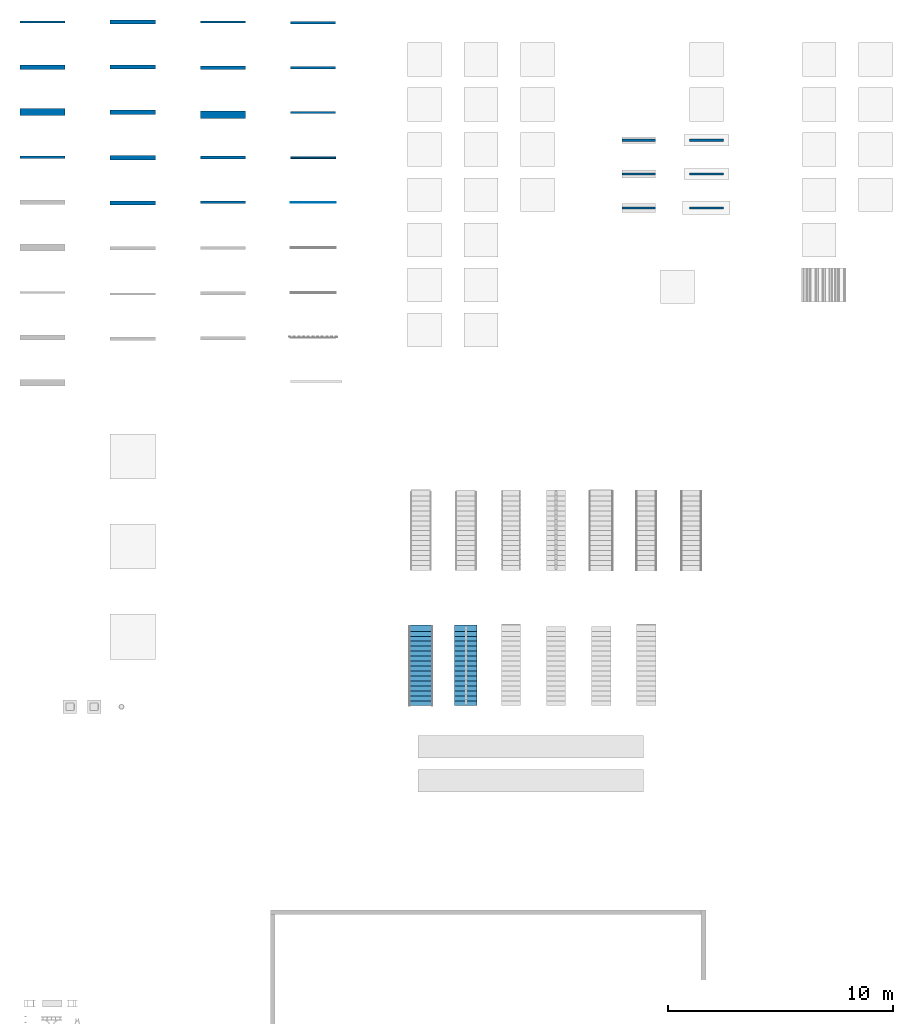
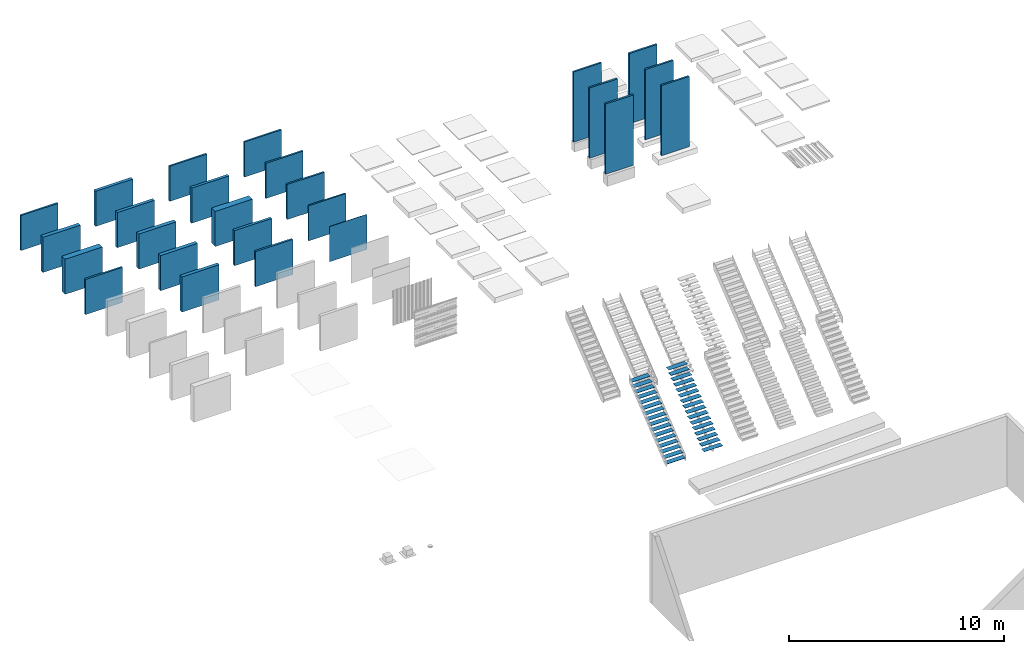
# One storey, part 5 of 13: 25 walls, 2 stair flights, 2 elements without a shape of their own.
"""IFC2X3 building model written with IfcOpenShell, lengths in millimetres."""

from ifc_helpers import new_model, entity, si_unit, converted_unit, derived_unit, direction, frame, frame_2d, origin, origin_2d_with_axis, place, context, subcontext, project, spatial, rectangle, extrude, material, layer, layer_set, layer_usage, type_object, element, aggregate, save


model = new_model("IFC2X3")

# Units and contexts
model_context = context("Model", 3, precision=0.01, world=origin(), true_north=direction((6.12303176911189e-17, 1.0)))
body_context = subcontext(model_context, "Body", "Model", "MODEL_VIEW")
ifc_project = project(units=[si_unit("LENGTHUNIT", "METRE", prefix="MILLI"), si_unit("AREAUNIT", "SQUARE_METRE"), si_unit("VOLUMEUNIT", "CUBIC_METRE"), converted_unit("PLANEANGLEUNIT", "DEGREE", entity("IfcRatioMeasure", 0.0174532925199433), si_unit("PLANEANGLEUNIT", "RADIAN"), dimensions=[0, 0, 0, 0, 0, 0, 0]), si_unit("MASSUNIT", "GRAM", prefix="KILO"), si_unit("TIMEUNIT", "SECOND"), si_unit("FREQUENCYUNIT", "HERTZ"), si_unit("THERMODYNAMICTEMPERATUREUNIT", "KELVIN"), derived_unit("THERMALTRANSMITTANCEUNIT", [(si_unit("MASSUNIT", "GRAM", prefix="KILO"), 1), (si_unit("THERMODYNAMICTEMPERATUREUNIT", "KELVIN"), -1), (si_unit("TIMEUNIT", "SECOND"), -3)]), derived_unit("VOLUMETRICFLOWRATEUNIT", [(si_unit("LENGTHUNIT", "METRE"), 3), (si_unit("TIMEUNIT", "SECOND"), -1)]), si_unit("ELECTRICCURRENTUNIT", "AMPERE"), si_unit("ELECTRICVOLTAGEUNIT", "VOLT"), si_unit("POWERUNIT", "WATT")], contexts=[model_context])

# Site, building, storey
site_placement = place(None, origin())
site = spatial("IfcSite", under=ifc_project, at=site_placement, Name="Surface", CompositionType="ELEMENT")
building_placement = place(site_placement, origin())
building = spatial("IfcBuilding", under=site, at=building_placement, CompositionType="ELEMENT")
storey_placement = place(building_placement, origin())
storey = spatial("IfcBuildingStorey", under=building, at=storey_placement, Name="00_begane grond", CompositionType="ELEMENT", Elevation=0.0)

# Walls
ifc_material_1 = material(Name="Default")
ifc_layer_1 = layer(ifc_material_1, 100.0)
ifc_layer_set_1 = layer_set([ifc_layer_1], Name="Basic Wall:20_WA_wand_generiek_100")
ifc_layer_usage_1 = layer_usage(ifc_layer_set_1, "AXIS2", "NEGATIVE", 50.0)
wall_type_1 = type_object("IfcWallType", Name="Basic Wall:20_WA_wand_generiek_100", PredefinedType="STANDARD", material=ifc_layer_set_1)
wall_1_placement = place(storey_placement, frame((0.0, -1000.0, 0.0)))
element("IfcWallStandardCase", 1, at=wall_1_placement, inside=storey, type_object=wall_type_1, material=ifc_layer_usage_1, Name="Basic Wall:20_WA_wand_generiek_100", ObjectType="Basic Wall:20_WA_wand_generiek_100:1384", context=body_context, shape_type="SweptSolid", body=[
    extrude(rectangle(XDim=2000.0, YDim=100.0, at=frame_2d((1000.0, -7.105427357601e-15), x_axis=(-1.0, 0.0))), origin(), (0.0, 0.0, 1.0), 2000.0),
])
ifc_layer_usage_2 = layer_usage(ifc_layer_set_1, "AXIS2", "NEGATIVE", 50.0)
wall_2_placement = place(storey_placement, frame((29689.8687148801, -6248.9380073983, 0.0)))
element("IfcWallStandardCase", 2, at=wall_2_placement, inside=storey, type_object=wall_type_1, material=ifc_layer_usage_2, Name="Basic Wall:20_WA_wand_generiek_100", ObjectType="Basic Wall:20_WA_wand_generiek_100:1384", context=body_context, shape_type="SweptSolid", body=[
    extrude(rectangle(XDim=1500.0, YDim=99.9999999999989, at=frame_2d((750.000000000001, -7.8159700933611e-14), x_axis=(-1.0, 0.0))), origin(), (0.0, 0.0, 1.0), 4000.0),
])
ifc_layer_usage_3 = layer_usage(ifc_layer_set_1, "AXIS2", "NEGATIVE", 50.0)
wall_3_placement = place(storey_placement, frame((29689.8687148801, -7748.9380073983, 0.0)))
element("IfcWallStandardCase", 3, at=wall_3_placement, inside=storey, type_object=wall_type_1, material=ifc_layer_usage_3, Name="Basic Wall:20_WA_wand_generiek_100", ObjectType="Basic Wall:20_WA_wand_generiek_100:1384", context=body_context, shape_type="SweptSolid", body=[
    extrude(rectangle(XDim=1500.0, YDim=100.000000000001, at=frame_2d((750.000000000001, -8.17124146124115e-14), x_axis=(-1.0, 0.0))), origin(), (0.0, 0.0, 1.0), 4000.0),
])
ifc_layer_usage_4 = layer_usage(ifc_layer_set_1, "AXIS2", "NEGATIVE", 50.0)
wall_4_placement = place(storey_placement, frame((29689.8687148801, -9248.9380073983, 0.0)))
element("IfcWallStandardCase", 4, at=wall_4_placement, inside=storey, type_object=wall_type_1, material=ifc_layer_usage_4, Name="Basic Wall:20_WA_wand_generiek_100", ObjectType="Basic Wall:20_WA_wand_generiek_100:1384", context=body_context, shape_type="SweptSolid", body=[
    extrude(rectangle(XDim=1500.0, YDim=99.9999999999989, at=frame_2d((750.000000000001, -7.8159700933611e-14), x_axis=(-1.0, 0.0))), origin(), (0.0, 0.0, 1.0), 4000.0),
])
ifc_layer_usage_5 = layer_usage(ifc_layer_set_1, "AXIS2", "NEGATIVE", 50.0)
wall_5_placement = place(storey_placement, frame((26689.8687148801, -6248.93800739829, 0.0)))
element("IfcWallStandardCase", 5, at=wall_5_placement, inside=storey, type_object=wall_type_1, material=ifc_layer_usage_5, Name="Basic Wall:20_WA_wand_generiek_100", ObjectType="Basic Wall:20_WA_wand_generiek_100:1384", context=body_context, shape_type="SweptSolid", body=[
    extrude(rectangle(XDim=1500.0, YDim=100.000000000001, at=frame_2d((750.000000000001, -8.17124146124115e-14), x_axis=(-1.0, 0.0))), origin(), (0.0, 0.0, 1.0), 4000.0),
])
ifc_layer_usage_6 = layer_usage(ifc_layer_set_1, "AXIS2", "NEGATIVE", 50.0)
wall_6_placement = place(storey_placement, frame((26689.8687148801, -7748.93800739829, 0.0)))
element("IfcWallStandardCase", 6, at=wall_6_placement, inside=storey, type_object=wall_type_1, material=ifc_layer_usage_6, Name="Basic Wall:20_WA_wand_generiek_100", ObjectType="Basic Wall:20_WA_wand_generiek_100:1384", context=body_context, shape_type="SweptSolid", body=[
    extrude(rectangle(XDim=1500.0, YDim=99.9999999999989, at=frame_2d((750.000000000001, -7.8159700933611e-14), x_axis=(-1.0, 0.0))), origin(), (0.0, 0.0, 1.0), 4000.0),
])
ifc_layer_usage_7 = layer_usage(ifc_layer_set_1, "AXIS2", "NEGATIVE", 50.0)
wall_7_placement = place(storey_placement, frame((26689.86871488, -9248.93800739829, 0.0)))
element("IfcWallStandardCase", 7, at=wall_7_placement, inside=storey, type_object=wall_type_1, material=ifc_layer_usage_7, Name="Basic Wall:20_WA_wand_generiek_100", ObjectType="Basic Wall:20_WA_wand_generiek_100:1384", context=body_context, shape_type="SweptSolid", body=[
    extrude(rectangle(XDim=1500.0, YDim=100.000000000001, at=frame_2d((750.000000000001, -8.17124146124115e-14), x_axis=(-1.0, 0.0))), origin(), (0.0, 0.0, 1.0), 4000.0),
])
ifc_layer_2 = layer(ifc_material_1, 200.0)
ifc_layer_set_2 = layer_set([ifc_layer_2], Name="Basic Wall:20_WA_wand_generiek_200")
ifc_layer_usage_8 = layer_usage(ifc_layer_set_2, "AXIS2", "NEGATIVE", 100.0)
wall_type_2 = type_object("IfcWallType", Name="Basic Wall:20_WA_wand_generiek_200", PredefinedType="STANDARD", material=ifc_layer_set_2)
wall_8_placement = place(storey_placement, frame((0.0, -3000.0, 0.0)))
element("IfcWallStandardCase", 8, at=wall_8_placement, inside=storey, type_object=wall_type_2, material=ifc_layer_usage_8, Name="Basic Wall:20_WA_wand_generiek_200", ObjectType="Basic Wall:20_WA_wand_generiek_200", context=body_context, shape_type="SweptSolid", body=[
    extrude(rectangle(XDim=2000.0, YDim=200.0, at=frame_2d((1000.0, -7.105427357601e-15), x_axis=(-1.0, 0.0))), origin(), (0.0, 0.0, 1.0), 2000.0),
])
ifc_layer_3 = layer(ifc_material_1, 300.0)
ifc_layer_set_3 = layer_set([ifc_layer_3], Name="Basic Wall:20_WA_wand_generiek_300")
ifc_layer_usage_9 = layer_usage(ifc_layer_set_3, "AXIS2", "NEGATIVE", 150.0)
wall_type_3 = type_object("IfcWallType", Name="Basic Wall:20_WA_wand_generiek_300", PredefinedType="STANDARD", material=ifc_layer_set_3)
wall_9_placement = place(storey_placement, frame((0.0, -5000.0, 0.0)))
element("IfcWallStandardCase", 9, at=wall_9_placement, inside=storey, type_object=wall_type_3, material=ifc_layer_usage_9, Name="Basic Wall:20_WA_wand_generiek_300", ObjectType="Basic Wall:20_WA_wand_generiek_300", context=body_context, shape_type="SweptSolid", body=[
    extrude(rectangle(XDim=2000.0, YDim=300.000000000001, at=frame_2d((1000.0, -2.70006239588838e-13), x_axis=(-1.0, 0.0))), origin(), (0.0, 0.0, 1.0), 2000.0),
])
ifc_material_2 = material(Name="00_baksteen_bestaand")
ifc_layer_4 = layer(ifc_material_2, 100.0)
ifc_layer_set_4 = layer_set([ifc_layer_4], Name="Basic Wall:21_WA_mw-bestaand_100")
ifc_layer_usage_10 = layer_usage(ifc_layer_set_4, "AXIS2", "NEGATIVE", 50.0)
wall_type_4 = type_object("IfcWallType", Name="Basic Wall:21_WA_mw-bestaand_100", PredefinedType="STANDARD", material=ifc_layer_set_4)
wall_10_placement = place(storey_placement, frame((0.0, -7000.0, 0.0)))
element("IfcWallStandardCase", 10, at=wall_10_placement, inside=storey, type_object=wall_type_4, material=ifc_layer_usage_10, Name="Basic Wall:21_WA_mw-bestaand_100", ObjectType="Basic Wall:21_WA_mw-bestaand_100", context=body_context, shape_type="SweptSolid", body=[
    extrude(rectangle(XDim=2000.0, YDim=99.9999999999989, at=frame_2d((1000.0, -7.105427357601e-15), x_axis=(-1.0, 0.0))), origin(), (0.0, 0.0, 1.0), 2000.0),
])
ifc_material_3 = material(Name="20_baksteen_wf_210x100x50_10mm_voeg_halfsteens_rood_genuanceerd")
ifc_layer_5 = layer(ifc_material_3, 100.0)
ifc_material_4 = material(Name="00_lucht_spouw_muur_geventileerd")
ifc_layer_6 = layer(ifc_material_4, 70.0)
ifc_layer_set_5 = layer_set([ifc_layer_5, ifc_layer_6], Name="Basic Wall:-70")
ifc_layer_usage_11 = layer_usage(ifc_layer_set_5, "AXIS2", "NEGATIVE", 85.0)
wall_type_5 = type_object("IfcWallType", Name="Basic Wall:-70", PredefinedType="STANDARD", material=ifc_layer_set_5)
wall_11_placement = place(storey_placement, frame((4000.0, -1000.0, 0.0)))
element("IfcWallStandardCase", 11, at=wall_11_placement, inside=storey, type_object=wall_type_5, material=ifc_layer_usage_11, Name="Basic Wall:-70", ObjectType="Basic Wall:-70", context=body_context, shape_type="SweptSolid", body=[
    extrude(rectangle(XDim=2000.0, YDim=170.0, at=frame_2d((1000.0, -7.105427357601e-15), x_axis=(-1.0, 0.0))), origin(), (0.0, 0.0, 1.0), 2000.0),
])
ifc_layer_7 = layer(ifc_material_3, 100.0)
ifc_layer_8 = layer(ifc_material_4, 20.0)
ifc_material_5 = material(Name="20_isolatie_steenwol")
ifc_layer_9 = layer(ifc_material_5, 50.0)
ifc_layer_set_6 = layer_set([ifc_layer_7, ifc_layer_8, ifc_layer_9], Name="Basic Wall:21_WA_mw_spouw_iso-sw_170_100-20-50")
ifc_layer_usage_12 = layer_usage(ifc_layer_set_6, "AXIS2", "NEGATIVE", 85.0)
wall_type_6 = type_object("IfcWallType", Name="Basic Wall:21_WA_mw_spouw_iso-sw_170_100-20-50", PredefinedType="STANDARD", material=ifc_layer_set_6)
wall_12_placement = place(storey_placement, frame((4000.0, -3000.0, 0.0)))
element("IfcWallStandardCase", 12, at=wall_12_placement, inside=storey, type_object=wall_type_6, material=ifc_layer_usage_12, Name="Basic Wall:21_WA_mw_spouw_iso-sw_170_100-20-50", ObjectType="Basic Wall:21_WA_mw_spouw_iso-sw_170_100-20-50", context=body_context, shape_type="SweptSolid", body=[
    extrude(rectangle(XDim=2000.0, YDim=170.0, at=frame_2d((1000.0, -7.105427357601e-15), x_axis=(-1.0, 0.0))), origin(), (0.0, 0.0, 1.0), 2000.0),
])
ifc_layer_10 = layer(ifc_material_3, 100.0)
ifc_layer_11 = layer(ifc_material_4, 30.0)
ifc_layer_12 = layer(ifc_material_5, 70.0)
ifc_layer_set_7 = layer_set([ifc_layer_10, ifc_layer_11, ifc_layer_12], Name="Basic Wall:21_WA_mw_spouw_iso-sw_200_100-30-70")
ifc_layer_usage_13 = layer_usage(ifc_layer_set_7, "AXIS2", "NEGATIVE", 100.0)
wall_type_7 = type_object("IfcWallType", Name="Basic Wall:21_WA_mw_spouw_iso-sw_200_100-30-70", PredefinedType="STANDARD", material=ifc_layer_set_7)
wall_13_placement = place(storey_placement, frame((4000.0, -5000.0, 0.0)))
element("IfcWallStandardCase", 13, at=wall_13_placement, inside=storey, type_object=wall_type_7, material=ifc_layer_usage_13, Name="Basic Wall:21_WA_mw_spouw_iso-sw_200_100-30-70", ObjectType="Basic Wall:21_WA_mw_spouw_iso-sw_200_100-30-70", context=body_context, shape_type="SweptSolid", body=[
    extrude(rectangle(XDim=2000.0, YDim=200.0, at=frame_2d((1000.0, -7.105427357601e-15), x_axis=(-1.0, 0.0))), origin(), (0.0, 0.0, 1.0), 2000.0),
])
ifc_layer_usage_14 = layer_usage(ifc_layer_set_7, "AXIS2", "NEGATIVE", 100.0)
wall_14_placement = place(storey_placement, frame((4000.0, -7020.0, 0.0)))
element("IfcWallStandardCase", 14, at=wall_14_placement, inside=storey, type_object=wall_type_7, material=ifc_layer_usage_14, Name="Basic Wall:21_WA_mw_spouw_iso-sw_200_100-30-70", ObjectType="Basic Wall:21_WA_mw_spouw_iso-sw_200_100-30-70", context=body_context, shape_type="SweptSolid", body=[
    extrude(rectangle(XDim=2000.0, YDim=200.0, at=frame_2d((1000.0, -7.105427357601e-15), x_axis=(-1.0, 0.0))), origin(), (0.0, 0.0, 1.0), 2000.0),
])
ifc_material_6 = material(Name="41_hout_hardhout_geveldelen_donkerblauw_horizontaal")
ifc_layer_13 = layer(ifc_material_6, 20.0)
ifc_material_7 = material(Name="40_regelwerk_geventileerd")
ifc_layer_14 = layer(ifc_material_7, 30.0)
ifc_layer_15 = layer(ifc_material_7, 10.0)
ifc_layer_16 = layer(ifc_material_5, 120.0)
ifc_layer_set_8 = layer_set([ifc_layer_13, ifc_layer_14, ifc_layer_15, ifc_layer_16], Name="Basic Wall:21_WA_hout-wrc-hor_rachel_tengel_iso-sw_180_20-30-10-120")
ifc_layer_usage_15 = layer_usage(ifc_layer_set_8, "AXIS2", "NEGATIVE", 90.0)
wall_type_8 = type_object("IfcWallType", Name="Basic Wall:21_WA_hout-wrc-hor_rachel_tengel_iso-sw_180_20-30-10-120", PredefinedType="STANDARD", material=ifc_layer_set_8)
wall_15_placement = place(storey_placement, frame((4000.0, -9030.0, 0.0)))
element("IfcWallStandardCase", 15, at=wall_15_placement, inside=storey, type_object=wall_type_8, material=ifc_layer_usage_15, Name="Basic Wall:21_WA_hout-wrc-hor_rachel_tengel_iso-sw_180_20-30-10-120", ObjectType="Basic Wall:21_WA_hout-wrc-hor_rachel_tengel_iso-sw_180_20-30-10-120", context=body_context, shape_type="SweptSolid", body=[
    extrude(rectangle(XDim=2000.0, YDim=180.0, at=frame_2d((1000.0, -7.105427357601e-15), x_axis=(-1.0, 0.0))), origin(), (0.0, 0.0, 1.0), 2000.0),
])
ifc_material_8 = material(Name="28_kalkzandsteen_CS16")
ifc_layer_17 = layer(ifc_material_8, 100.0)
ifc_layer_set_9 = layer_set([ifc_layer_17], Name="Basic Wall:28_WA_kzs_CS16_100")
ifc_layer_usage_16 = layer_usage(ifc_layer_set_9, "AXIS2", "NEGATIVE", 50.0)
wall_type_9 = type_object("IfcWallType", Name="Basic Wall:28_WA_kzs_CS16_100", PredefinedType="STANDARD", material=ifc_layer_set_9)
wall_16_placement = place(storey_placement, frame((8000.0, -1000.0, 0.0)))
element("IfcWallStandardCase", 16, at=wall_16_placement, inside=storey, type_object=wall_type_9, material=ifc_layer_usage_16, Name="Basic Wall:28_WA_kzs_CS16_100", ObjectType="Basic Wall:28_WA_kzs_CS16_100", context=body_context, shape_type="SweptSolid", body=[
    extrude(rectangle(XDim=2000.0, YDim=100.0, at=frame_2d((1000.0, -7.105427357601e-15), x_axis=(-1.0, 0.0))), origin(), (0.0, 0.0, 1.0), 2000.0),
])
ifc_layer_18 = layer(ifc_material_8, 150.0)
ifc_layer_set_10 = layer_set([ifc_layer_18], Name="Basic Wall:28_WA_kzs_CS16_150")
ifc_layer_usage_17 = layer_usage(ifc_layer_set_10, "AXIS2", "NEGATIVE", 75.0)
wall_type_10 = type_object("IfcWallType", Name="Basic Wall:28_WA_kzs_CS16_150", PredefinedType="STANDARD", material=ifc_layer_set_10)
wall_17_placement = place(storey_placement, frame((8000.0, -3025.0, 0.0)))
element("IfcWallStandardCase", 17, at=wall_17_placement, inside=storey, type_object=wall_type_10, material=ifc_layer_usage_17, Name="Basic Wall:28_WA_kzs_CS16_150", ObjectType="Basic Wall:28_WA_kzs_CS16_150", context=body_context, shape_type="SweptSolid", body=[
    extrude(rectangle(XDim=2000.0, YDim=150.000000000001, at=frame_2d((1000.0, -7.105427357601e-15), x_axis=(-1.0, 0.0))), origin(), (0.0, 0.0, 1.0), 2000.0),
])
ifc_layer_19 = layer(ifc_material_8, 150.0)
ifc_layer_20 = layer(ifc_material_4, 30.0)
ifc_layer_21 = layer(ifc_material_8, 150.0)
ifc_layer_set_11 = layer_set([ifc_layer_19, ifc_layer_20, ifc_layer_21], Name="Basic Wall:28_WA_kzs-CS16_spouw_kzs-C16_330_150-30-150")
ifc_layer_usage_18 = layer_usage(ifc_layer_set_11, "AXIS2", "NEGATIVE", 165.0)
wall_type_11 = type_object("IfcWallType", Name="Basic Wall:28_WA_kzs-CS16_spouw_kzs-C16_330_150-30-150", PredefinedType="STANDARD", material=ifc_layer_set_11)
wall_18_placement = place(storey_placement, frame((8000.0, -5115.0, 0.0)))
element("IfcWallStandardCase", 18, at=wall_18_placement, inside=storey, type_object=wall_type_11, material=ifc_layer_usage_18, Name="Basic Wall:28_WA_kzs-CS16_spouw_kzs-C16_330_150-30-150", ObjectType="Basic Wall:28_WA_kzs-CS16_spouw_kzs-C16_330_150-30-150", context=body_context, shape_type="SweptSolid", body=[
    extrude(rectangle(XDim=2000.0, YDim=330.000000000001, at=frame_2d((1000.0, 0.0), x_axis=(-1.0, 0.0))), origin(), (0.0, 0.0, 1.0), 2000.0),
])
ifc_material_9 = material(Name="28_poriso_dragend")
ifc_layer_22 = layer(ifc_material_9, 140.0)
ifc_layer_set_12 = layer_set([ifc_layer_22], Name="Basic Wall:28_WA_por_PM25_140")
ifc_layer_usage_19 = layer_usage(ifc_layer_set_12, "AXIS2", "NEGATIVE", 70.0)
wall_type_12 = type_object("IfcWallType", Name="Basic Wall:28_WA_por_PM25_140", PredefinedType="STANDARD", material=ifc_layer_set_12)
wall_19_placement = place(storey_placement, frame((8000.0, -7020.0, 0.0)))
element("IfcWallStandardCase", 19, at=wall_19_placement, inside=storey, type_object=wall_type_12, material=ifc_layer_usage_19, Name="Basic Wall:28_WA_por_PM25_140", ObjectType="Basic Wall:28_WA_por_PM25_140", context=body_context, shape_type="SweptSolid", body=[
    extrude(rectangle(XDim=2000.0, YDim=140.000000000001, at=frame_2d((1000.0, -7.105427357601e-15), x_axis=(-1.0, 0.0))), origin(), (0.0, 0.0, 1.0), 2000.0),
])
ifc_material_10 = material(Name="28_cellenbeton_G4/600")
ifc_layer_23 = layer(ifc_material_10, 100.0)
ifc_layer_set_13 = layer_set([ifc_layer_23], Name="Basic Wall:28_WA_cb_G4/600_100")
ifc_layer_usage_20 = layer_usage(ifc_layer_set_13, "AXIS2", "NEGATIVE", 50.0)
wall_type_13 = type_object("IfcWallType", Name="Basic Wall:28_WA_cb_G4/600_100", PredefinedType="STANDARD", material=ifc_layer_set_13)
wall_20_placement = place(storey_placement, frame((8000.0, -9000.0, 0.0)))
element("IfcWallStandardCase", 20, at=wall_20_placement, inside=storey, type_object=wall_type_13, material=ifc_layer_usage_20, Name="Basic Wall:28_WA_cb_G4/600_100", ObjectType="Basic Wall:28_WA_cb_G4/600_100", context=body_context, shape_type="SweptSolid", body=[
    extrude(rectangle(XDim=2000.0, YDim=100.000000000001, at=frame_2d((1000.0, -1.06581410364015e-14), x_axis=(-1.0, 0.0))), origin(), (0.0, 0.0, 1.0), 2000.0),
])
ifc_material_11 = material(Name="22_kalkzandsteen_CS12")
ifc_layer_24 = layer(ifc_material_11, 100.0)
ifc_layer_set_14 = layer_set([ifc_layer_24], Name="Basic Wall:22_WA_kzs_CS12_100")
ifc_layer_usage_21 = layer_usage(ifc_layer_set_14, "AXIS2", "NEGATIVE", 50.0)
wall_type_14 = type_object("IfcWallType", Name="Basic Wall:22_WA_kzs_CS12_100", PredefinedType="STANDARD", material=ifc_layer_set_14)
wall_21_placement = place(storey_placement, frame((12000.0, -1035.0, 0.0)))
element("IfcWallStandardCase", 21, at=wall_21_placement, inside=storey, type_object=wall_type_14, material=ifc_layer_usage_21, Name="Basic Wall:22_WA_kzs_CS12_100", ObjectType="Basic Wall:22_WA_kzs_CS12_100", context=body_context, shape_type="SweptSolid", body=[
    extrude(rectangle(XDim=2000.0, YDim=100.0, at=frame_2d((1000.0, -7.105427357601e-15), x_axis=(-1.0, 0.0))), origin(), (0.0, 0.0, 1.0), 2000.0),
])
ifc_material_12 = material(Name="22_cellenbeton G2/400")
ifc_layer_25 = layer(ifc_material_12, 100.0)
ifc_layer_set_15 = layer_set([ifc_layer_25], Name="Basic Wall:22_WA_cb_G2/400_100")
ifc_layer_usage_22 = layer_usage(ifc_layer_set_15, "AXIS2", "NEGATIVE", 50.0)
wall_type_15 = type_object("IfcWallType", Name="Basic Wall:22_WA_cb_G2/400_100", PredefinedType="STANDARD", material=ifc_layer_set_15)
wall_22_placement = place(storey_placement, frame((12000.0, -3035.0, 0.0)))
element("IfcWallStandardCase", 22, at=wall_22_placement, inside=storey, type_object=wall_type_15, material=ifc_layer_usage_22, Name="Basic Wall:22_WA_cb_G2/400_100", ObjectType="Basic Wall:22_WA_cb_G2/400_100", context=body_context, shape_type="SweptSolid", body=[
    extrude(rectangle(XDim=2000.0, YDim=100.0, at=frame_2d((1000.0, -7.105427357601e-15), x_axis=(-1.0, 0.0))), origin(), (0.0, 0.0, 1.0), 2000.0),
])
ifc_material_13 = material(Name="22_gips_beplating_wand_610mm")
ifc_layer_26 = layer(ifc_material_13, 12.5)
ifc_layer_27 = layer(ifc_material_5, 70.0)
ifc_layer_28 = layer(ifc_material_13, 12.5)
ifc_layer_set_16 = layer_set([ifc_layer_26, ifc_layer_27, ifc_layer_28], Name="Basic Wall:22_WA_ms-wand_gips_isolatie_gips_95_12.5-70-12.5")
ifc_layer_usage_23 = layer_usage(ifc_layer_set_16, "AXIS2", "NEGATIVE", 47.5)
wall_type_16 = type_object("IfcWallType", Name="Basic Wall:22_WA_ms-wand_gips_isolatie_gips_95_12.5-70-12.5", PredefinedType="STANDARD", material=ifc_layer_set_16)
wall_23_placement = place(storey_placement, frame((12000.0, -5020.0, 0.0)))
element("IfcWallStandardCase", 23, at=wall_23_placement, inside=storey, type_object=wall_type_16, material=ifc_layer_usage_23, Name="Basic Wall:22_WA_ms-wand_gips_isolatie_gips_95_12.5-70-12.5", ObjectType="Basic Wall:22_WA_ms-wand_gips_isolatie_gips_95_12.5-70-12.5", context=body_context, shape_type="SweptSolid", body=[
    extrude(rectangle(XDim=2000.0, YDim=95.0000000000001, at=frame_2d((1000.0, -7.105427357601e-15), x_axis=(-1.0, 0.0))), origin(), (0.0, 0.0, 1.0), 2000.0),
])
ifc_material_14 = material(Name="22_glazen_bouwsteen")
ifc_layer_29 = layer(ifc_material_14, 80.0)
ifc_layer_set_17 = layer_set([ifc_layer_29], Name="Basic Wall:22_WA_glazen_bouwsteen_80")
ifc_layer_usage_24 = layer_usage(ifc_layer_set_17, "AXIS2", "NEGATIVE", 40.0)
wall_type_17 = type_object("IfcWallType", Name="Basic Wall:22_WA_glazen_bouwsteen_80", PredefinedType="STANDARD", material=ifc_layer_set_17)
wall_24_placement = place(storey_placement, frame((12000.0, -7025.0, 0.0)))
element("IfcWallStandardCase", 24, at=wall_24_placement, inside=storey, type_object=wall_type_17, material=ifc_layer_usage_24, Name="Basic Wall:22_WA_glazen_bouwsteen_80", ObjectType="Basic Wall:22_WA_glazen_bouwsteen_80", context=body_context, shape_type="SweptSolid", body=[
    extrude(rectangle(XDim=2000.0, YDim=79.9999999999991, at=frame_2d((1000.0, -7.105427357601e-15), x_axis=(-1.0, 0.0))), origin(), (0.0, 0.0, 1.0), 2000.0),
])
ifc_material_15 = material(Name="40_stucwerk_interieur_fijn_wit")
ifc_layer_30 = layer(ifc_material_15, 20.0)
ifc_layer_set_18 = layer_set([ifc_layer_30], Name="Basic Wall:42_WA_stucwerk_20")
ifc_layer_usage_25 = layer_usage(ifc_layer_set_18, "AXIS2", "NEGATIVE", 10.0)
wall_type_18 = type_object("IfcWallType", Name="Basic Wall:42_WA_stucwerk_20", PredefinedType="STANDARD", material=ifc_layer_set_18)
wall_25_placement = place(storey_placement, frame((12000.0, -9007.50000000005, 0.0)))
element("IfcWallStandardCase", 25, at=wall_25_placement, inside=storey, type_object=wall_type_18, material=ifc_layer_usage_25, Name="Basic Wall:42_WA_stucwerk_20", ObjectType="Basic Wall:42_WA_stucwerk_20", context=body_context, shape_type="SweptSolid", body=[
    extrude(rectangle(XDim=2000.0, YDim=19.9999999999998, at=frame_2d((1000.0, -7.99360577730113e-15), x_axis=(-1.0, 0.0))), origin(), (0.0, 0.0, 1.0), 2000.0),
])

# Stair, stair flight
stair_1_placement = place(storey_placement, origin())
stair_1 = element("IfcStair", 26, at=stair_1_placement, inside=storey, Name="Assembled Stair:Stair", ShapeType="NOTDEFINED")
ifc_material_16 = material(Name="24_staal_gegalvaniseerd_rooster_generiek")
stair_flight_1_placement = place(stair_1_placement, frame((17274.8089026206, -31324.6322235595, 0.0)))
stair_flight_1 = element("IfcStairFlight", 27, at=stair_flight_1_placement, material=ifc_material_16, Name="Assembled Stair:Stair:69305 Run 1", ObjectType="Assembled Stair:24_ST_stalen trap_open_b=1000_op=185_aan=350", NumberOfRiser=17, NumberOfTreads=16, RiserHeight=0.578971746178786, TreadLength=0.721784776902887, context=body_context, shape_type="SweptSolid", body=[
    extrude(rectangle(XDim=270.000000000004, YDim=1000.0, at=frame_2d((2.1600499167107e-12, -2.1600499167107e-12), x_axis=(1.0, 0.0))), frame((500.0, 135.0, 161.470588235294), z_axis=(0.0, 0.0, 1.0), x_axis=(0.0, -1.0, 0.0)), (0.0, 0.0, 1.0), 15.0),
    extrude(rectangle(XDim=269.999999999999, YDim=1000.0, at=frame_2d((4.32009983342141e-12, -2.1600499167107e-12), x_axis=(1.0, 0.0))), frame((500.0, 355.0, 337.941176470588), z_axis=(0.0, 0.0, 1.0), x_axis=(0.0, -1.0, 0.0)), (0.0, 0.0, 1.0), 15.0),
    extrude(rectangle(XDim=270.000000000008, YDim=1000.0, at=frame_2d((-4.33431068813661e-12, -1.08002495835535e-12), x_axis=(1.0, 0.0))), frame((500.0, 575.0, 514.411764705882), z_axis=(0.0, 0.0, 1.0), x_axis=(0.0, -1.0, 0.0)), (0.0, 0.0, 1.0), 15.0),
    extrude(rectangle(XDim=269.999999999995, YDim=1000.0, at=frame_2d((-2.1600499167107e-12, -2.18847162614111e-12), x_axis=(1.0, 0.0))), frame((500.0, 795.0, 690.882352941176), z_axis=(0.0, 0.0, 1.0), x_axis=(0.0, -1.0, 0.0)), (0.0, 0.0, 1.0), 15.0),
    extrude(rectangle(XDim=270.000000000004, YDim=1000.0, at=frame_2d((2.1600499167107e-12, -2.18847162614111e-12), x_axis=(1.0, 0.0))), frame((500.0, 1015.0, 867.35294117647), z_axis=(0.0, 0.0, 1.0), x_axis=(0.0, -1.0, 0.0)), (0.0, 0.0, 1.0), 15.0),
    extrude(rectangle(XDim=269.999999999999, YDim=1000.0, at=frame_2d((0.0, -2.18847162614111e-12), x_axis=(1.0, 0.0))), frame((500.0, 1235.0, 1043.82352941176), z_axis=(0.0, 0.0, 1.0), x_axis=(0.0, -1.0, 0.0)), (0.0, 0.0, 1.0), 15.0),
    extrude(rectangle(XDim=270.000000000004, YDim=1000.0, at=frame_2d((-2.1600499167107e-12, -2.18847162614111e-12), x_axis=(1.0, 0.0))), frame((500.0, 1455.0, 1220.29411764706), z_axis=(0.0, 0.0, 1.0), x_axis=(0.0, -1.0, 0.0)), (0.0, 0.0, 1.0), 15.0000000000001),
    extrude(rectangle(XDim=270.000000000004, YDim=1000.0, at=frame_2d((-2.1600499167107e-12, -1.08002495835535e-12), x_axis=(1.0, 0.0))), frame((500.0, 1675.0, 1396.76470588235), z_axis=(0.0, 0.0, 1.0), x_axis=(0.0, -1.0, 0.0)), (0.0, 0.0, 1.0), 15.0000000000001),
    extrude(rectangle(XDim=269.999999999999, YDim=1000.0, at=frame_2d((4.33431068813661e-12, -1.08002495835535e-12), x_axis=(1.0, 0.0))), frame((500.0, 1895.0, 1573.23529411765), z_axis=(0.0, 0.0, 1.0), x_axis=(0.0, -1.0, 0.0)), (0.0, 0.0, 1.0), 15.0000000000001),
    extrude(rectangle(XDim=270.000000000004, YDim=1000.0, at=frame_2d((2.1600499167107e-12, 0.0), x_axis=(1.0, 0.0))), frame((500.0, 2115.0, 1749.70588235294), z_axis=(0.0, 0.0, 1.0), x_axis=(0.0, -1.0, 0.0)), (0.0, 0.0, 1.0), 15.0000000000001),
    extrude(rectangle(XDim=269.999999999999, YDim=1000.0, at=frame_2d((4.32009983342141e-12, 0.0), x_axis=(1.0, 0.0))), frame((500.0, 2335.0, 1926.17647058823), z_axis=(0.0, 0.0, 1.0), x_axis=(0.0, -1.0, 0.0)), (0.0, 0.0, 1.0), 15.0000000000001),
    extrude(rectangle(XDim=269.999999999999, YDim=1000.0, at=origin_2d_with_axis()), frame((500.0, 2555.0, 2102.64705882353), z_axis=(0.0, 0.0, 1.0), x_axis=(0.0, -1.0, 0.0)), (0.0, 0.0, 1.0), 15.0000000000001),
    extrude(rectangle(XDim=270.000000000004, YDim=1000.0, at=frame_2d((-2.1600499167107e-12, 0.0), x_axis=(1.0, 0.0))), frame((500.0, 2775.0, 2279.11764705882), z_axis=(0.0, 0.0, 1.0), x_axis=(0.0, -1.0, 0.0)), (0.0, 0.0, 1.0), 15.0000000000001),
    extrude(rectangle(XDim=270.000000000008, YDim=1000.0, at=frame_2d((0.0, 1.08002495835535e-12), x_axis=(1.0, 0.0))), frame((500.0, 2995.0, 2455.58823529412), z_axis=(0.0, 0.0, 1.0), x_axis=(0.0, -1.0, 0.0)), (0.0, 0.0, 1.0), 14.9999999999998),
    extrude(rectangle(XDim=269.999999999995, YDim=1000.0, at=frame_2d((2.1600499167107e-12, 0.0), x_axis=(1.0, 0.0))), frame((500.0, 3215.0, 2632.05882352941), z_axis=(0.0, 0.0, 1.0), x_axis=(0.0, -1.0, 0.0)), (0.0, 0.0, 1.0), 14.9999999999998),
    extrude(rectangle(XDim=270.000000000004, YDim=1000.0, at=frame_2d((-2.1600499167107e-12, 0.0), x_axis=(1.0, 0.0))), frame((500.0, 3435.0, 2808.5294117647), z_axis=(0.0, 0.0, 1.0), x_axis=(0.0, -1.0, 0.0)), (0.0, 0.0, 1.0), 14.9999999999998),
])
aggregate(stair_1, [stair_flight_1])

stair_2_placement = place(storey_placement, origin())
stair_2 = element("IfcStair", 28, at=stair_2_placement, inside=storey, Name="Assembled Stair:Stair", ShapeType="NOTDEFINED")
stair_flight_2_placement = place(stair_2_placement, frame((19274.8089026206, -31324.6322235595, 0.0)))
stair_flight_2 = element("IfcStairFlight", 29, at=stair_flight_2_placement, material=ifc_material_16, Name="Assembled Stair:Stair:69309 Run 1", ObjectType="Assembled Stair:24_ST_stalen trap_open_middenboom_b=1000_op=185_aan=220", NumberOfRiser=17, NumberOfTreads=16, RiserHeight=0.578971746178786, TreadLength=0.721784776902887, context=body_context, shape_type="SweptSolid", body=[
    extrude(rectangle(XDim=270.000000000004, YDim=999.999999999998, at=frame_2d((-2.1600499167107e-12, 0.0), x_axis=(1.0, 0.0))), frame((500.0, 135.0, 161.470588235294), z_axis=(0.0, 0.0, 1.0), x_axis=(0.0, -1.0, 0.0)), (0.0, 0.0, 1.0), 15.0),
    extrude(rectangle(XDim=269.999999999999, YDim=999.999999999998, at=origin_2d_with_axis()), frame((500.0, 355.0, 337.941176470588), z_axis=(0.0, 0.0, 1.0), x_axis=(0.0, -1.0, 0.0)), (0.0, 0.0, 1.0), 15.0),
    extrude(rectangle(XDim=270.000000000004, YDim=999.999999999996, at=frame_2d((2.1600499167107e-12, 1.10844666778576e-12), x_axis=(1.0, 0.0))), frame((500.0, 575.0, 514.411764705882), z_axis=(0.0, 0.0, 1.0), x_axis=(0.0, -1.0, 0.0)), (0.0, 0.0, 1.0), 15.0),
    extrude(rectangle(XDim=269.999999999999, YDim=999.999999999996, at=frame_2d((0.0, 1.10844666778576e-12), x_axis=(1.0, 0.0))), frame((500.0, 795.0, 690.882352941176), z_axis=(0.0, 0.0, 1.0), x_axis=(0.0, -1.0, 0.0)), (0.0, 0.0, 1.0), 15.0),
    extrude(rectangle(XDim=270.000000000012, YDim=999.999999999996, at=frame_2d((-6.49436060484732e-12, 1.10844666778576e-12), x_axis=(1.0, 0.0))), frame((500.0, 1015.0, 867.35294117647), z_axis=(0.0, 0.0, 1.0), x_axis=(0.0, -1.0, 0.0)), (0.0, 0.0, 1.0), 15.0),
    extrude(rectangle(XDim=269.999999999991, YDim=1000.0, at=frame_2d((4.33431068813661e-12, 1.10844666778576e-12), x_axis=(1.0, 0.0))), frame((500.0, 1235.0, 1043.82352941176), z_axis=(0.0, 0.0, 1.0), x_axis=(0.0, -1.0, 0.0)), (0.0, 0.0, 1.0), 15.0),
    extrude(rectangle(XDim=270.000000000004, YDim=1000.0, at=frame_2d((2.1600499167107e-12, -1.10844666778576e-12), x_axis=(1.0, 0.0))), frame((500.0, 1455.0, 1220.29411764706), z_axis=(0.0, 0.0, 1.0), x_axis=(0.0, -1.0, 0.0)), (0.0, 0.0, 1.0), 15.0000000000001),
    extrude(rectangle(XDim=269.999999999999, YDim=999.999999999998, at=frame_2d((-4.32009983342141e-12, 0.0), x_axis=(1.0, 0.0))), frame((500.0, 1675.0, 1396.76470588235), z_axis=(0.0, 0.0, 1.0), x_axis=(0.0, -1.0, 0.0)), (0.0, 0.0, 1.0), 15.0000000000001),
    extrude(rectangle(XDim=270.000000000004, YDim=999.999999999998, at=frame_2d((-2.1600499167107e-12, 0.0), x_axis=(1.0, 0.0))), frame((500.0, 1895.0, 1573.23529411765), z_axis=(0.0, 0.0, 1.0), x_axis=(0.0, -1.0, 0.0)), (0.0, 0.0, 1.0), 15.0000000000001),
    extrude(rectangle(XDim=269.999999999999, YDim=999.999999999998, at=origin_2d_with_axis()), frame((500.0, 2115.0, 1749.70588235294), z_axis=(0.0, 0.0, 1.0), x_axis=(0.0, -1.0, 0.0)), (0.0, 0.0, 1.0), 15.0000000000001),
    extrude(rectangle(XDim=270.000000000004, YDim=999.999999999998, at=frame_2d((-2.1600499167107e-12, 0.0), x_axis=(1.0, 0.0))), frame((500.0, 2335.0, 1926.17647058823), z_axis=(0.0, 0.0, 1.0), x_axis=(0.0, -1.0, 0.0)), (0.0, 0.0, 1.0), 15.0000000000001),
    extrude(rectangle(XDim=270.000000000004, YDim=999.999999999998, at=frame_2d((2.1600499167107e-12, 0.0), x_axis=(1.0, 0.0))), frame((500.0, 2555.0, 2102.64705882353), z_axis=(0.0, 0.0, 1.0), x_axis=(0.0, -1.0, 0.0)), (0.0, 0.0, 1.0), 15.0000000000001),
    extrude(rectangle(XDim=269.999999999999, YDim=999.999999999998, at=origin_2d_with_axis()), frame((500.0, 2775.0, 2279.11764705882), z_axis=(0.0, 0.0, 1.0), x_axis=(0.0, -1.0, 0.0)), (0.0, 0.0, 1.0), 15.0000000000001),
    extrude(rectangle(XDim=270.000000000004, YDim=999.999999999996, at=frame_2d((-2.1600499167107e-12, 1.10844666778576e-12), x_axis=(1.0, 0.0))), frame((500.0, 2995.0, 2455.58823529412), z_axis=(0.0, 0.0, 1.0), x_axis=(0.0, -1.0, 0.0)), (0.0, 0.0, 1.0), 14.9999999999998),
    extrude(rectangle(XDim=269.999999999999, YDim=999.999999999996, at=frame_2d((0.0, 1.10844666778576e-12), x_axis=(1.0, 0.0))), frame((500.0, 3215.0, 2632.05882352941), z_axis=(0.0, 0.0, 1.0), x_axis=(0.0, -1.0, 0.0)), (0.0, 0.0, 1.0), 14.9999999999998),
    extrude(rectangle(XDim=270.000000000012, YDim=999.999999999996, at=frame_2d((-6.49436060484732e-12, 1.10844666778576e-12), x_axis=(1.0, 0.0))), frame((500.0, 3435.0, 2808.5294117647), z_axis=(0.0, 0.0, 1.0), x_axis=(0.0, -1.0, 0.0)), (0.0, 0.0, 1.0), 14.9999999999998),
])
aggregate(stair_2, [stair_flight_2])

save(model, "model.ifc")
